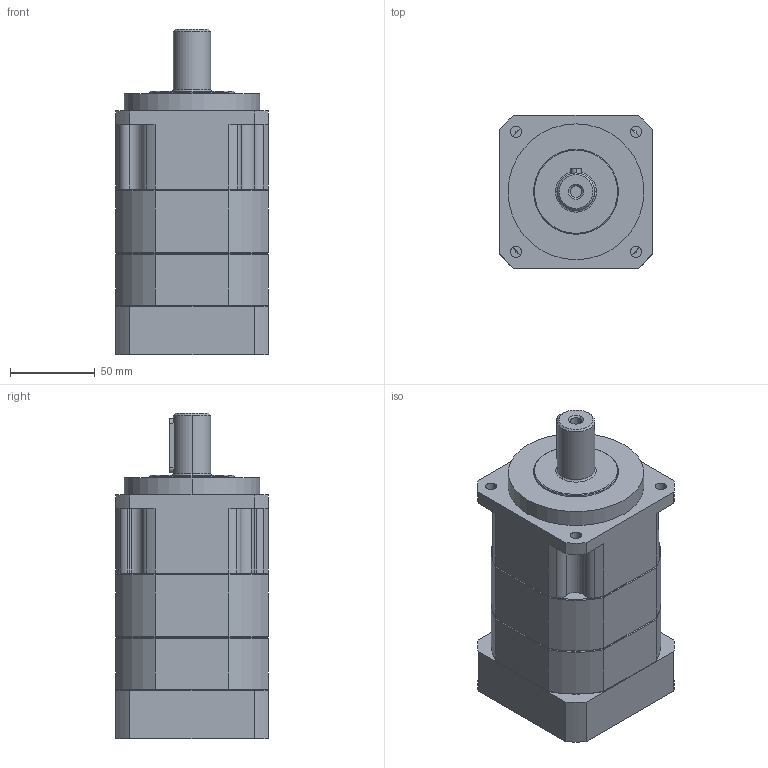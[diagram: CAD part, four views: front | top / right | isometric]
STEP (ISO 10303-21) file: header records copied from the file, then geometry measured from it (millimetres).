
FILE_DESCRIPTION (( 'STEP AP214' ), '1' );
FILE_NAME ('PAB-090-L2-S2-P1 19-70-90-M6.STEP', '2023-08-31T06:03:53', ( '微软用户' ), ( '微软中国' ), 'SwSTEP 2.0', 'SolidWorks 2018', '' );
FILE_SCHEMA (( 'AUTOMOTIVE_DESIGN' ));
Length unit declared in the file: millimetre
Products named in the file (1): PAB-090-L2-S2-P1 19-70-90-M6
Bounding box: 90 x 90 x 191.5 mm (x, y, z)
Volume: 1065431.8 mm3; surface area: 79507.4 mm2
Topology: 1 solids, 1 shells, 192 faces, 443 edges, 266 vertices
Faces by surface type: cylinder 75, plane 69, cone 46, torus 2
Entity records: 5551 total; most frequent: CARTESIAN_POINT 1085, DIRECTION 987, ORIENTED_EDGE 886, EDGE_CURVE 443, AXIS2_PLACEMENT_3D 394, VERTEX_POINT 266, EDGE_LOOP 213, CIRCLE 201
